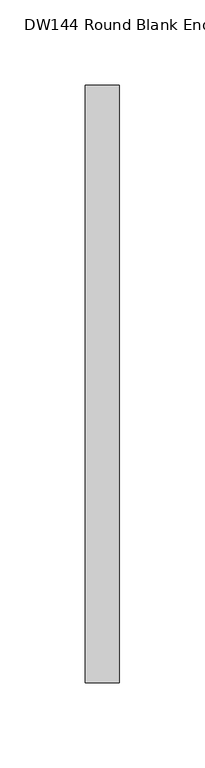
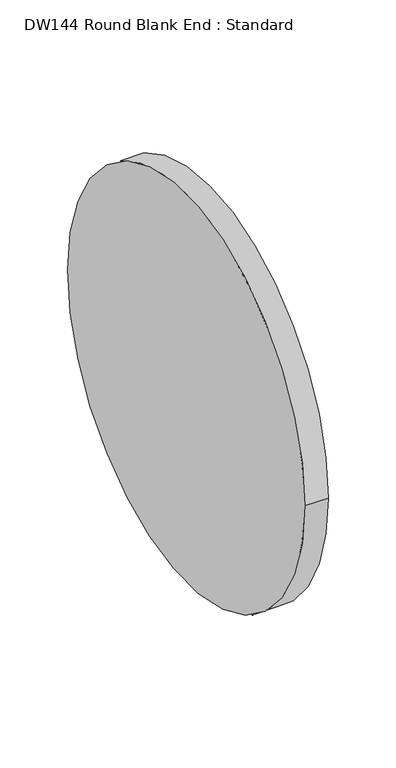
"""IFC4 building model written with IfcOpenShell, lengths in millimetres: duct fitting geometry, DW144 Round Blank End : Standard."""

from ifc_helpers import new_model, si_unit, point, frame, origin, origin_2d, place, context, project, spatial, circle_curve, trimmed, segment, composite_curve, outline, extrude, source, transform, mapped, element, save


def dw144_round_blank_end_standard_e3d0b58b(model_context):
    return source(origin(), model_context, "Body", "SweptSolid", [
        extrude(outline(composite_curve([segment(trimmed(circle_curve(origin_2d(), 175.0), [point((-175.0, 0.0))], [point((175.0, 0.0))], False, "CARTESIAN"), True, "CONTINUOUS"), segment(trimmed(circle_curve(origin_2d(), 175.0), [point((175.0, 0.0))], [point((-175.0, 0.0))], False, "CARTESIAN"), True, "CONTINUOUS")], self_intersect=False)), frame((0.0, 0.0, 0.0), z_axis=(1.0, 0.0, 0.0), x_axis=(0.0, 1.0, 0.0)), (0.0, 0.0, 1.0), 20.0),
    ])


if __name__ == "__main__":
    model = new_model("IFC4")
    model_context = context("Model", 3, world=origin())
    ifc_project = project(units=[si_unit("LENGTHUNIT", "METRE", prefix="MILLI")], contexts=[model_context])
    site = spatial("IfcSite", under=ifc_project)
    building = spatial("IfcBuilding", under=site)
    placement = place(None, origin())
    dw144_round_blank_end_standard_shape = dw144_round_blank_end_standard_e3d0b58b(model_context)
    element("IfcDuctFitting", 1, ObjectType="DW144 Round Blank End : Standard", at=placement, inside=building, context=model_context, shape_type="MappedRepresentation", body=[
        mapped(dw144_round_blank_end_standard_shape, transform((0.0, 0.0, 0.0), x_axis=(1.0, 0.0, 0.0), y_axis=(0.0, 1.0, 0.0), z_axis=(0.0, 0.0, 1.0))),
    ])
    save(model, "model.ifc")
